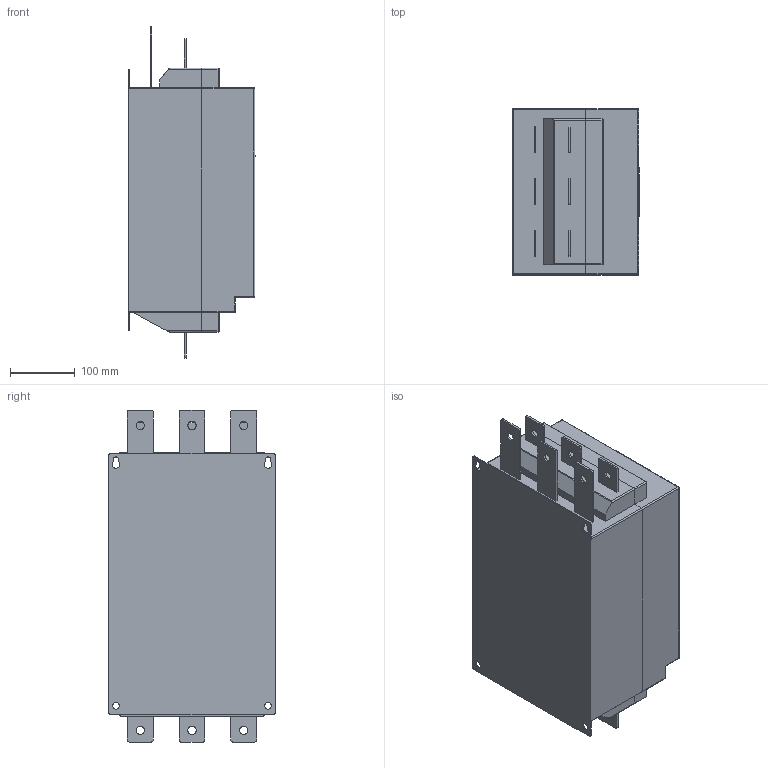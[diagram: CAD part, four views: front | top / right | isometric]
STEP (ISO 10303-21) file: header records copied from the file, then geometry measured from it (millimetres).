
FILE_DESCRIPTION(('STEP AP203'), '1');
FILE_NAME('ﾓﾏﾏ _ SSI-75_150-04', '', ('UNSPECIFIED'), ('UNSPECIFIED'), 'C3D Converter', 'C3D Toolkit', '');
FILE_SCHEMA(('CONFIG_CONTROL_DESIGN'));
Length unit declared in the file: millimetre
Products named in the file (7): SSI-200_400-04; SSI-KP
Assembly tree (12 placements, depth 2):
  SSI-200_400-04
    SSI-200_400-04
    SSI-200_400-04
    SSI-200_400-04  x3
    SSI-200_400-04  x3
    SSI-200_400-04  x3
    SSI-KP
Bounding box: 195.62 x 257 x 513 mm (x, y, z)
Volume: 18322902.9 mm3; surface area: 793723.4 mm2
Topology: 12 solids, 12 shells, 557 faces, 1441 edges, 936 vertices
Faces by surface type: plane 439, cylinder 107, sphere 10, torus 1
Full cylindrical faces by diameter (mm): 4.8 x12, 10 x2, 10.5 x2, 12 x6, 13 x9
Entity records: 15828 total; most frequent: CARTESIAN_POINT 2670, ORIENTED_EDGE 2556, DIRECTION 2548, EDGE_CURVE 1278, LINE 1024, VECTOR 1024, VERTEX_POINT 852, AXIS2_PLACEMENT_3D 762
